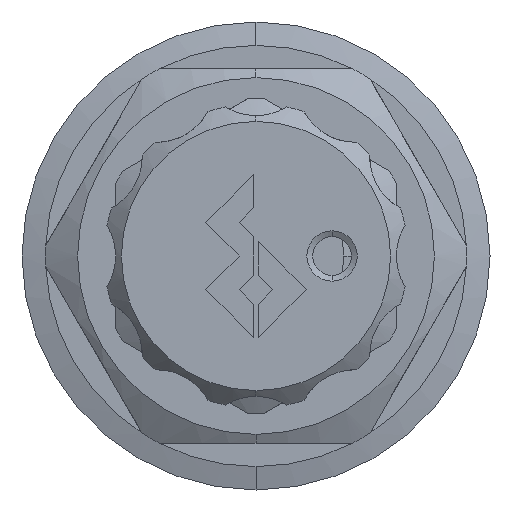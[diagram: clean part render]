
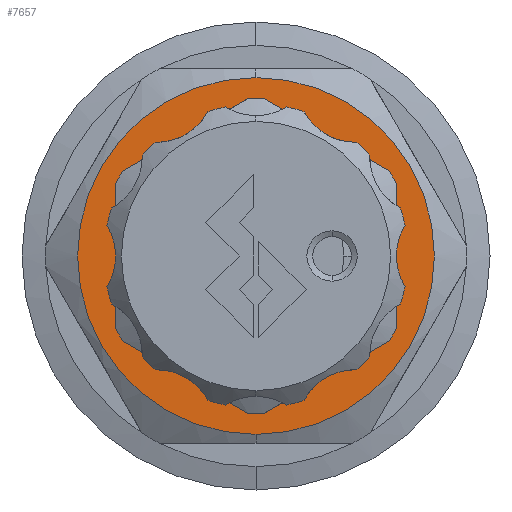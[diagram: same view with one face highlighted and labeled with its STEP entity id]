
A CAD part, left-side view. The second image highlights one B-rep face of the part: STEP entity #7657.
In plain terms, the highlighted planar face has unit normal (-1, 0, 0).
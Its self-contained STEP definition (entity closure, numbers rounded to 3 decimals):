
#442 = EDGE_LOOP ( 'NONE', ( #4859, #4860 ) ) ;
#1276 = CARTESIAN_POINT ( 'NONE',  ( -18.4, 0., 15.25 ) ) ;
#1278 = CARTESIAN_POINT ( 'NONE',  ( -18.4, 0., -15.25 ) ) ;
#1494 = AXIS2_PLACEMENT_3D ( 'NONE', #5482, #5481, #5480 ) ;
#1911 = FACE_OUTER_BOUND ( 'NONE', #442, .T. ) ;
#2970 = CIRCLE ( 'NONE', #4172, 15.25 ) ;
#2973 = CIRCLE ( 'NONE', #4168, 15.25 ) ;
#3212 = DIRECTION ( 'NONE',  ( 0., 0., -1. ) ) ;
#3213 = DIRECTION ( 'NONE',  ( 1., 0., 0. ) ) ;
#3214 = CARTESIAN_POINT ( 'NONE',  ( -18.4, 0., 0. ) ) ;
#3267 = DIRECTION ( 'NONE',  ( 0., 0., -1. ) ) ;
#3268 = DIRECTION ( 'NONE',  ( 1., 0., 0. ) ) ;
#3269 = CARTESIAN_POINT ( 'NONE',  ( -18.4, 0., 0. ) ) ;
#3663 = VERTEX_POINT ( 'NONE', #1278 ) ;
#3675 = VERTEX_POINT ( 'NONE', #1276 ) ;
#4168 = AXIS2_PLACEMENT_3D ( 'NONE', #3214, #3213, #3212 ) ;
#4172 = AXIS2_PLACEMENT_3D ( 'NONE', #3269, #3268, #3267 ) ;
#4355 = EDGE_CURVE ( 'NONE', #3663, #3675, #2970, .T. ) ;
#4365 = EDGE_CURVE ( 'NONE', #3675, #3663, #2973, .T. ) ;
#4859 = ORIENTED_EDGE ( 'NONE', *, *, #4355, .F. ) ;
#4860 = ORIENTED_EDGE ( 'NONE', *, *, #4365, .F. ) ;
#5480 = DIRECTION ( 'NONE',  ( 0., 0., 1. ) ) ;
#5481 = DIRECTION ( 'NONE',  ( -1., 0., 0. ) ) ;
#5482 = CARTESIAN_POINT ( 'NONE',  ( -18.4, 0., 0. ) ) ;
#5490 = PLANE ( 'NONE',  #1494 ) ;
#7657 = ADVANCED_FACE ( 'NONE', ( #1911 ), #5490, .T. ) ;
